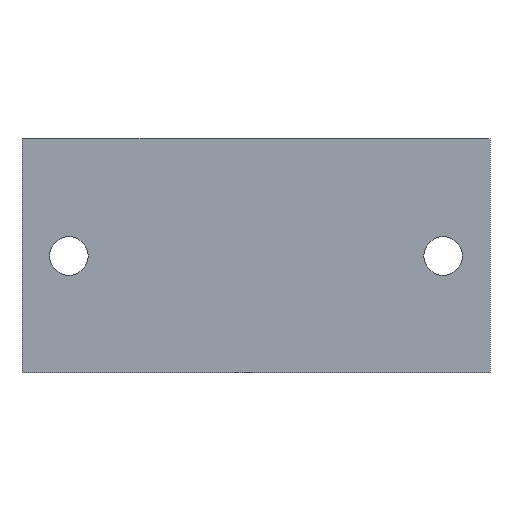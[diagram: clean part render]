
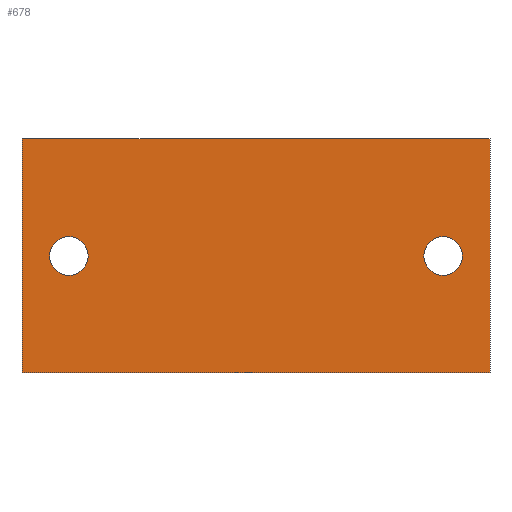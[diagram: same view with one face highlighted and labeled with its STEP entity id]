
A CAD part, front view. The second image highlights one B-rep face of the part: STEP entity #678.
In plain terms, the highlighted planar face has unit normal (0, -1, 0).
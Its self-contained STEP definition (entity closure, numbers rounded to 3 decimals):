
#19 = CARTESIAN_POINT ( 'NONE',  ( 16., 0., 0. ) ) ;
#23 = LINE ( 'NONE', #452, #763 ) ;
#26 = CARTESIAN_POINT ( 'NONE',  ( -16., 0., 1.65 ) ) ;
#47 = AXIS2_PLACEMENT_3D ( 'NONE', #82, #573, #451 ) ;
#49 = DIRECTION ( 'NONE',  ( 0., 0., -1. ) ) ;
#58 = ORIENTED_EDGE ( 'NONE', *, *, #432, .F. ) ;
#63 = EDGE_CURVE ( 'NONE', #470, #574, #134, .T. ) ;
#64 = LINE ( 'NONE', #791, #236 ) ;
#69 = AXIS2_PLACEMENT_3D ( 'NONE', #79, #740, #494 ) ;
#72 = EDGE_LOOP ( 'NONE', ( #437, #582 ) ) ;
#73 = CARTESIAN_POINT ( 'NONE',  ( 20., 0., -10. ) ) ;
#79 = CARTESIAN_POINT ( 'NONE',  ( 20., 0., 10. ) ) ;
#82 = CARTESIAN_POINT ( 'NONE',  ( 16., 0., 0. ) ) ;
#99 = ORIENTED_EDGE ( 'NONE', *, *, #792, .F. ) ;
#110 = CIRCLE ( 'NONE', #47, 1.65 ) ;
#134 = CIRCLE ( 'NONE', #254, 1.65 ) ;
#150 = EDGE_CURVE ( 'NONE', #382, #624, #235, .T. ) ;
#157 = VERTEX_POINT ( 'NONE', #73 ) ;
#167 = DIRECTION ( 'NONE',  ( 0., -1., 0. ) ) ;
#183 = EDGE_LOOP ( 'NONE', ( #638, #99, #796, #242 ) ) ;
#204 = CARTESIAN_POINT ( 'NONE',  ( 20., 0., -10. ) ) ;
#228 = EDGE_CURVE ( 'NONE', #624, #382, #110, .T. ) ;
#235 = CIRCLE ( 'NONE', #359, 1.65 ) ;
#236 = VECTOR ( 'NONE', #314, 1000. ) ;
#242 = ORIENTED_EDGE ( 'NONE', *, *, #260, .T. ) ;
#254 = AXIS2_PLACEMENT_3D ( 'NONE', #476, #167, #592 ) ;
#260 = EDGE_CURVE ( 'NONE', #411, #625, #23, .T. ) ;
#270 = DIRECTION ( 'NONE',  ( 0., 0., -1. ) ) ;
#288 = EDGE_CURVE ( 'NONE', #625, #157, #508, .T. ) ;
#314 = DIRECTION ( 'NONE',  ( 1., 0., 0. ) ) ;
#324 = VECTOR ( 'NONE', #49, 1000. ) ;
#359 = AXIS2_PLACEMENT_3D ( 'NONE', #19, #668, #489 ) ;
#367 = CARTESIAN_POINT ( 'NONE',  ( -16., 0., -1.65 ) ) ;
#380 = CARTESIAN_POINT ( 'NONE',  ( 16., 0., 1.65 ) ) ;
#382 = VERTEX_POINT ( 'NONE', #598 ) ;
#397 = FACE_BOUND ( 'NONE', #72, .T. ) ;
#411 = VERTEX_POINT ( 'NONE', #430 ) ;
#413 = AXIS2_PLACEMENT_3D ( 'NONE', #469, #591, #527 ) ;
#430 = CARTESIAN_POINT ( 'NONE',  ( -20., 0., 10. ) ) ;
#432 = EDGE_CURVE ( 'NONE', #574, #470, #504, .T. ) ;
#437 = ORIENTED_EDGE ( 'NONE', *, *, #228, .T. ) ;
#447 = FACE_BOUND ( 'NONE', #564, .T. ) ;
#451 = DIRECTION ( 'NONE',  ( 0., 0., 1. ) ) ;
#452 = CARTESIAN_POINT ( 'NONE',  ( -20., 0., 10. ) ) ;
#455 = DIRECTION ( 'NONE',  ( 1., 0., 0. ) ) ;
#469 = CARTESIAN_POINT ( 'NONE',  ( -16., 0., 0. ) ) ;
#470 = VERTEX_POINT ( 'NONE', #367 ) ;
#471 = CARTESIAN_POINT ( 'NONE',  ( 20., 0., 10. ) ) ;
#476 = CARTESIAN_POINT ( 'NONE',  ( -16., 0., 0. ) ) ;
#489 = DIRECTION ( 'NONE',  ( 0., 0., 1. ) ) ;
#494 = DIRECTION ( 'NONE',  ( -1., 0., 0. ) ) ;
#498 = FACE_OUTER_BOUND ( 'NONE', #183, .T. ) ;
#504 = CIRCLE ( 'NONE', #413, 1.65 ) ;
#508 = LINE ( 'NONE', #204, #590 ) ;
#523 = ORIENTED_EDGE ( 'NONE', *, *, #63, .F. ) ;
#525 = VERTEX_POINT ( 'NONE', #471 ) ;
#527 = DIRECTION ( 'NONE',  ( 0., 0., 1. ) ) ;
#558 = PLANE ( 'NONE',  #69 ) ;
#564 = EDGE_LOOP ( 'NONE', ( #58, #523 ) ) ;
#573 = DIRECTION ( 'NONE',  ( 0., 1., 0. ) ) ;
#574 = VERTEX_POINT ( 'NONE', #26 ) ;
#582 = ORIENTED_EDGE ( 'NONE', *, *, #150, .T. ) ;
#590 = VECTOR ( 'NONE', #455, 1000. ) ;
#591 = DIRECTION ( 'NONE',  ( 0., -1., 0. ) ) ;
#592 = DIRECTION ( 'NONE',  ( 0., 0., 1. ) ) ;
#598 = CARTESIAN_POINT ( 'NONE',  ( 16., 0., -1.65 ) ) ;
#624 = VERTEX_POINT ( 'NONE', #380 ) ;
#625 = VERTEX_POINT ( 'NONE', #654 ) ;
#632 = EDGE_CURVE ( 'NONE', #411, #525, #64, .T. ) ;
#638 = ORIENTED_EDGE ( 'NONE', *, *, #288, .T. ) ;
#654 = CARTESIAN_POINT ( 'NONE',  ( -20., 0., -10. ) ) ;
#658 = LINE ( 'NONE', #783, #324 ) ;
#668 = DIRECTION ( 'NONE',  ( 0., 1., 0. ) ) ;
#678 = ADVANCED_FACE ( 'NONE', ( #397, #498, #447 ), #558, .F. ) ;
#740 = DIRECTION ( 'NONE',  ( 0., 1., 0. ) ) ;
#763 = VECTOR ( 'NONE', #270, 1000. ) ;
#783 = CARTESIAN_POINT ( 'NONE',  ( 20., 0., 10. ) ) ;
#791 = CARTESIAN_POINT ( 'NONE',  ( 20., 0., 10. ) ) ;
#792 = EDGE_CURVE ( 'NONE', #525, #157, #658, .T. ) ;
#796 = ORIENTED_EDGE ( 'NONE', *, *, #632, .F. ) ;
